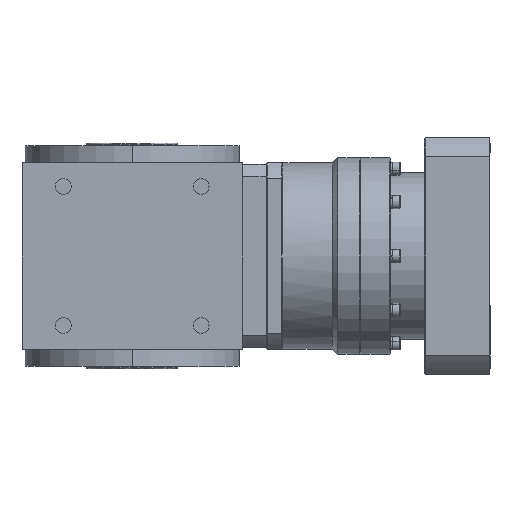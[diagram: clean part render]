
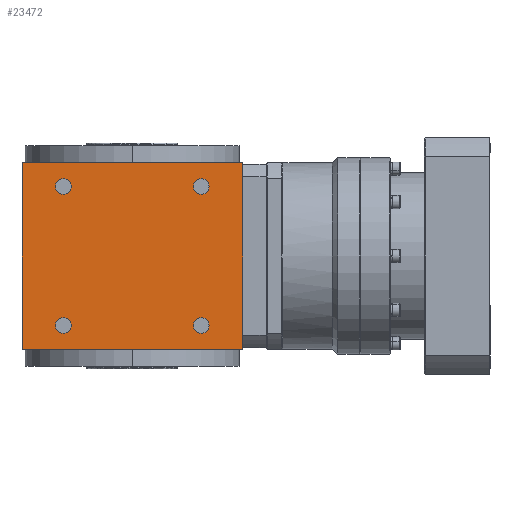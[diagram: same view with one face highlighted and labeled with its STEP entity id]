
A CAD part, left-side view. The second image highlights one B-rep face of the part: STEP entity #23472.
In plain terms, the highlighted planar face has unit normal (-1, 0, 0).
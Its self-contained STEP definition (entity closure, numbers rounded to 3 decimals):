
#84 = CARTESIAN_POINT ( 'NONE',  ( -84., -58.5, -53. ) ) ;
#678 = VERTEX_POINT ( 'NONE', #23508 ) ;
#733 = CARTESIAN_POINT ( 'NONE',  ( -84., 52.5, 53. ) ) ;
#1299 = DIRECTION ( 'NONE',  ( 1., 0., 0. ) ) ;
#1564 = CARTESIAN_POINT ( 'NONE',  ( -84., 58.5, -53. ) ) ;
#1749 = VERTEX_POINT ( 'NONE', #16166 ) ;
#2413 = DIRECTION ( 'NONE',  ( 0., 0., -1. ) ) ;
#2508 = ORIENTED_EDGE ( 'NONE', *, *, #22579, .F. ) ;
#2927 = AXIS2_PLACEMENT_3D ( 'NONE', #17400, #31916, #12166 ) ;
#3297 = EDGE_LOOP ( 'NONE', ( #17173, #29127 ) ) ;
#5098 = EDGE_LOOP ( 'NONE', ( #20090, #2508, #22469, #10615 ) ) ;
#5473 = DIRECTION ( 'NONE',  ( 1., 0., 0. ) ) ;
#5962 = DIRECTION ( 'NONE',  ( 1., 0., 0. ) ) ;
#6117 = CARTESIAN_POINT ( 'NONE',  ( -84., 46.5, 53. ) ) ;
#6222 = VERTEX_POINT ( 'NONE', #6117 ) ;
#7055 = FACE_BOUND ( 'NONE', #3297, .T. ) ;
#7161 = DIRECTION ( 'NONE',  ( 0., -1., 0. ) ) ;
#7252 = CARTESIAN_POINT ( 'NONE',  ( -84., 84., -71. ) ) ;
#7394 = DIRECTION ( 'NONE',  ( 0., 0., 1. ) ) ;
#7432 = EDGE_CURVE ( 'NONE', #6222, #36120, #36728, .T. ) ;
#7596 = AXIS2_PLACEMENT_3D ( 'NONE', #36499, #21825, #10997 ) ;
#7752 = CARTESIAN_POINT ( 'NONE',  ( -84., 84., -71. ) ) ;
#8113 = FACE_BOUND ( 'NONE', #16403, .T. ) ;
#8155 = CARTESIAN_POINT ( 'NONE',  ( -84., 52.5, 53. ) ) ;
#8172 = CIRCLE ( 'NONE', #7596, 6. ) ;
#8289 = FACE_OUTER_BOUND ( 'NONE', #5098, .T. ) ;
#8609 = CARTESIAN_POINT ( 'NONE',  ( -84., -52.5, 53. ) ) ;
#9373 = AXIS2_PLACEMENT_3D ( 'NONE', #733, #5962, #34434 ) ;
#9570 = CIRCLE ( 'NONE', #30411, 6. ) ;
#9590 = DIRECTION ( 'NONE',  ( 0., -1., 0. ) ) ;
#9606 = EDGE_CURVE ( 'NONE', #32946, #1749, #27853, .T. ) ;
#10615 = ORIENTED_EDGE ( 'NONE', *, *, #27887, .T. ) ;
#10997 = DIRECTION ( 'NONE',  ( 0., -1., 0. ) ) ;
#11652 = CIRCLE ( 'NONE', #34822, 6. ) ;
#12166 = DIRECTION ( 'NONE',  ( 0., -1., 0. ) ) ;
#12308 = CARTESIAN_POINT ( 'NONE',  ( -84., 58.5, 53. ) ) ;
#12352 = LINE ( 'NONE', #20932, #22796 ) ;
#12660 = DIRECTION ( 'NONE',  ( 0., -1., 0. ) ) ;
#13273 = EDGE_CURVE ( 'NONE', #35434, #21235, #15974, .T. ) ;
#13312 = CARTESIAN_POINT ( 'NONE',  ( -84., 0., -71. ) ) ;
#13785 = EDGE_LOOP ( 'NONE', ( #20134, #18823 ) ) ;
#14116 = CARTESIAN_POINT ( 'NONE',  ( -84., 46.5, -53. ) ) ;
#14335 = CARTESIAN_POINT ( 'NONE',  ( -84., -84., -71. ) ) ;
#14349 = CIRCLE ( 'NONE', #17312, 6. ) ;
#14411 = EDGE_CURVE ( 'NONE', #17112, #16046, #17212, .T. ) ;
#15068 = EDGE_CURVE ( 'NONE', #24865, #33204, #11652, .T. ) ;
#15472 = CARTESIAN_POINT ( 'NONE',  ( -84., -52.5, 53. ) ) ;
#15650 = PLANE ( 'NONE',  #21738 ) ;
#15974 = LINE ( 'NONE', #7752, #33355 ) ;
#16046 = VERTEX_POINT ( 'NONE', #1564 ) ;
#16098 = VERTEX_POINT ( 'NONE', #25389 ) ;
#16166 = CARTESIAN_POINT ( 'NONE',  ( -84., -46.5, -53. ) ) ;
#16403 = EDGE_LOOP ( 'NONE', ( #21613, #26994 ) ) ;
#16622 = EDGE_CURVE ( 'NONE', #1749, #32946, #8172, .T. ) ;
#17112 = VERTEX_POINT ( 'NONE', #14116 ) ;
#17173 = ORIENTED_EDGE ( 'NONE', *, *, #25818, .T. ) ;
#17212 = CIRCLE ( 'NONE', #2927, 6. ) ;
#17312 = AXIS2_PLACEMENT_3D ( 'NONE', #8155, #19718, #34391 ) ;
#17400 = CARTESIAN_POINT ( 'NONE',  ( -84., 52.5, -53. ) ) ;
#17956 = AXIS2_PLACEMENT_3D ( 'NONE', #15472, #1299, #12660 ) ;
#18823 = ORIENTED_EDGE ( 'NONE', *, *, #24891, .T. ) ;
#19718 = DIRECTION ( 'NONE',  ( 1., 0., 0. ) ) ;
#20090 = ORIENTED_EDGE ( 'NONE', *, *, #31307, .F. ) ;
#20134 = ORIENTED_EDGE ( 'NONE', *, *, #7432, .T. ) ;
#20345 = DIRECTION ( 'NONE',  ( 0., -1., 0. ) ) ;
#20763 = CARTESIAN_POINT ( 'NONE',  ( -84., -52.5, -53. ) ) ;
#20932 = CARTESIAN_POINT ( 'NONE',  ( -84., 0., 71. ) ) ;
#21235 = VERTEX_POINT ( 'NONE', #33906 ) ;
#21613 = ORIENTED_EDGE ( 'NONE', *, *, #14411, .T. ) ;
#21738 = AXIS2_PLACEMENT_3D ( 'NONE', #7252, #25253, #35533 ) ;
#21825 = DIRECTION ( 'NONE',  ( 1., 0., 0. ) ) ;
#22418 = LINE ( 'NONE', #13312, #33556 ) ;
#22469 = ORIENTED_EDGE ( 'NONE', *, *, #13273, .F. ) ;
#22579 = EDGE_CURVE ( 'NONE', #21235, #678, #12352, .T. ) ;
#22796 = VECTOR ( 'NONE', #7161, 1000. ) ;
#23350 = ORIENTED_EDGE ( 'NONE', *, *, #16622, .T. ) ;
#23472 = ADVANCED_FACE ( 'NONE', ( #8113, #24182, #7055, #32759, #8289 ), #15650, .T. ) ;
#23494 = CARTESIAN_POINT ( 'NONE',  ( -84., 84., -71. ) ) ;
#23508 = CARTESIAN_POINT ( 'NONE',  ( -84., -84., 71. ) ) ;
#23936 = EDGE_CURVE ( 'NONE', #16046, #17112, #9570, .T. ) ;
#24182 = FACE_BOUND ( 'NONE', #25238, .T. ) ;
#24865 = VERTEX_POINT ( 'NONE', #30883 ) ;
#24891 = EDGE_CURVE ( 'NONE', #36120, #6222, #14349, .T. ) ;
#25030 = DIRECTION ( 'NONE',  ( 0., -1., 0. ) ) ;
#25238 = EDGE_LOOP ( 'NONE', ( #28867, #23350 ) ) ;
#25253 = DIRECTION ( 'NONE',  ( -1., 0., 0. ) ) ;
#25389 = CARTESIAN_POINT ( 'NONE',  ( -84., -84., -71. ) ) ;
#25818 = EDGE_CURVE ( 'NONE', #33204, #24865, #33994, .T. ) ;
#26994 = ORIENTED_EDGE ( 'NONE', *, *, #23936, .T. ) ;
#27853 = CIRCLE ( 'NONE', #35539, 6. ) ;
#27887 = EDGE_CURVE ( 'NONE', #35434, #16098, #22418, .T. ) ;
#28867 = ORIENTED_EDGE ( 'NONE', *, *, #9606, .T. ) ;
#29127 = ORIENTED_EDGE ( 'NONE', *, *, #15068, .T. ) ;
#29610 = LINE ( 'NONE', #14335, #33335 ) ;
#30258 = DIRECTION ( 'NONE',  ( 0., -1., 0. ) ) ;
#30411 = AXIS2_PLACEMENT_3D ( 'NONE', #35821, #5473, #25030 ) ;
#30883 = CARTESIAN_POINT ( 'NONE',  ( -84., -46.5, 53. ) ) ;
#31307 = EDGE_CURVE ( 'NONE', #678, #16098, #29610, .T. ) ;
#31916 = DIRECTION ( 'NONE',  ( 1., 0., 0. ) ) ;
#32759 = FACE_BOUND ( 'NONE', #13785, .T. ) ;
#32946 = VERTEX_POINT ( 'NONE', #84 ) ;
#33204 = VERTEX_POINT ( 'NONE', #36356 ) ;
#33335 = VECTOR ( 'NONE', #2413, 1000. ) ;
#33355 = VECTOR ( 'NONE', #7394, 1000. ) ;
#33556 = VECTOR ( 'NONE', #30258, 1000. ) ;
#33906 = CARTESIAN_POINT ( 'NONE',  ( -84., 84., 71. ) ) ;
#33994 = CIRCLE ( 'NONE', #17956, 6. ) ;
#34391 = DIRECTION ( 'NONE',  ( 0., -1., 0. ) ) ;
#34434 = DIRECTION ( 'NONE',  ( 0., -1., 0. ) ) ;
#34481 = DIRECTION ( 'NONE',  ( 1., 0., 0. ) ) ;
#34822 = AXIS2_PLACEMENT_3D ( 'NONE', #8609, #34481, #20345 ) ;
#35094 = DIRECTION ( 'NONE',  ( 1., 0., 0. ) ) ;
#35434 = VERTEX_POINT ( 'NONE', #23494 ) ;
#35533 = DIRECTION ( 'NONE',  ( 0., -1., 0. ) ) ;
#35539 = AXIS2_PLACEMENT_3D ( 'NONE', #20763, #35094, #9590 ) ;
#35821 = CARTESIAN_POINT ( 'NONE',  ( -84., 52.5, -53. ) ) ;
#36120 = VERTEX_POINT ( 'NONE', #12308 ) ;
#36356 = CARTESIAN_POINT ( 'NONE',  ( -84., -58.5, 53. ) ) ;
#36499 = CARTESIAN_POINT ( 'NONE',  ( -84., -52.5, -53. ) ) ;
#36728 = CIRCLE ( 'NONE', #9373, 6. ) ;
